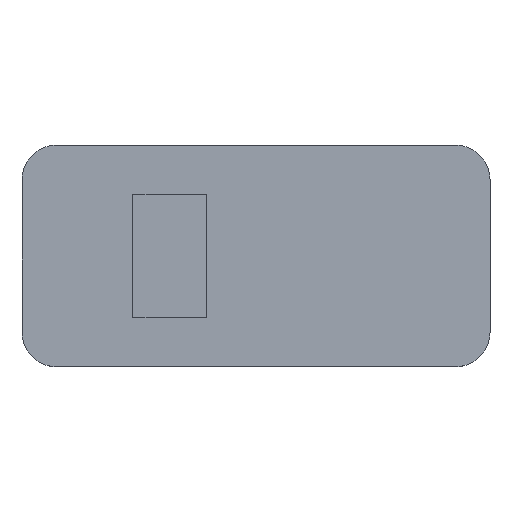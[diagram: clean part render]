
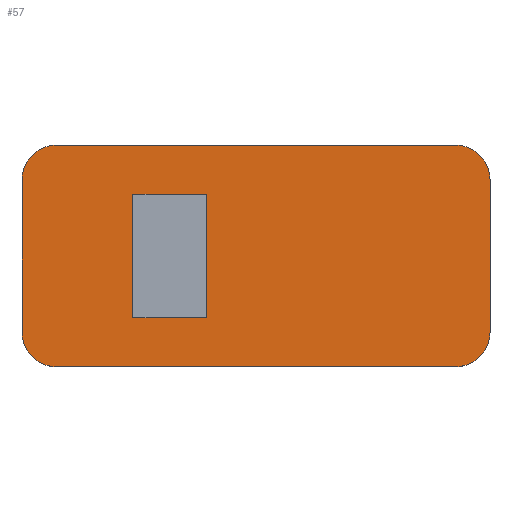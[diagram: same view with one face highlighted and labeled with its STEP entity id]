
A CAD part, top view. The second image highlights one B-rep face of the part: STEP entity #57.
In plain terms, the highlighted planar face has unit normal (0, 0, 1).
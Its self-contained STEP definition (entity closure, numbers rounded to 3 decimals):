
#21 = EDGE_CURVE('',#22,#24,#26,.T.);
#22 = VERTEX_POINT('',#23);
#23 = CARTESIAN_POINT('',(-60.,-31.,8.));
#24 = VERTEX_POINT('',#25);
#25 = CARTESIAN_POINT('',(-60.,31.,8.));
#26 = LINE('',#27,#28);
#27 = CARTESIAN_POINT('',(-60.,-45.,8.));
#28 = VECTOR('',#29,1.);
#29 = DIRECTION('',(-0.,1.,0.));
#57 = ADVANCED_FACE('',(#58,#119),#153,.T.);
#58 = FACE_BOUND('',#59,.T.);
#59 = EDGE_LOOP('',(#60,#61,#70,#78,#87,#95,#104,#112));
#60 = ORIENTED_EDGE('',*,*,#21,.F.);
#61 = ORIENTED_EDGE('',*,*,#62,.T.);
#62 = EDGE_CURVE('',#22,#63,#65,.T.);
#63 = VERTEX_POINT('',#64);
#64 = CARTESIAN_POINT('',(-46.,-45.,8.));
#65 = CIRCLE('',#66,14.);
#66 = AXIS2_PLACEMENT_3D('',#67,#68,#69);
#67 = CARTESIAN_POINT('',(-46.,-31.,8.));
#68 = DIRECTION('',(0.,0.,1.));
#69 = DIRECTION('',(0.,-1.,0.));
#70 = ORIENTED_EDGE('',*,*,#71,.T.);
#71 = EDGE_CURVE('',#63,#72,#74,.T.);
#72 = VERTEX_POINT('',#73);
#73 = CARTESIAN_POINT('',(116.,-45.,8.));
#74 = LINE('',#75,#76);
#75 = CARTESIAN_POINT('',(-60.,-45.,8.));
#76 = VECTOR('',#77,1.);
#77 = DIRECTION('',(1.,0.,-0.));
#78 = ORIENTED_EDGE('',*,*,#79,.F.);
#79 = EDGE_CURVE('',#80,#72,#82,.T.);
#80 = VERTEX_POINT('',#81);
#81 = CARTESIAN_POINT('',(130.,-31.,8.));
#82 = CIRCLE('',#83,14.);
#83 = AXIS2_PLACEMENT_3D('',#84,#85,#86);
#84 = CARTESIAN_POINT('',(116.,-31.,8.));
#85 = DIRECTION('',(-0.,-0.,-1.));
#86 = DIRECTION('',(0.,-1.,0.));
#87 = ORIENTED_EDGE('',*,*,#88,.T.);
#88 = EDGE_CURVE('',#80,#89,#91,.T.);
#89 = VERTEX_POINT('',#90);
#90 = CARTESIAN_POINT('',(130.,31.,8.));
#91 = LINE('',#92,#93);
#92 = CARTESIAN_POINT('',(130.,-45.,8.));
#93 = VECTOR('',#94,1.);
#94 = DIRECTION('',(-0.,1.,0.));
#95 = ORIENTED_EDGE('',*,*,#96,.T.);
#96 = EDGE_CURVE('',#89,#97,#99,.T.);
#97 = VERTEX_POINT('',#98);
#98 = CARTESIAN_POINT('',(116.,45.,8.));
#99 = CIRCLE('',#100,14.);
#100 = AXIS2_PLACEMENT_3D('',#101,#102,#103);
#101 = CARTESIAN_POINT('',(116.,31.,8.));
#102 = DIRECTION('',(0.,0.,1.));
#103 = DIRECTION('',(0.,-1.,0.));
#104 = ORIENTED_EDGE('',*,*,#105,.F.);
#105 = EDGE_CURVE('',#106,#97,#108,.T.);
#106 = VERTEX_POINT('',#107);
#107 = CARTESIAN_POINT('',(-46.,45.,8.));
#108 = LINE('',#109,#110);
#109 = CARTESIAN_POINT('',(-60.,45.,8.));
#110 = VECTOR('',#111,1.);
#111 = DIRECTION('',(1.,0.,-0.));
#112 = ORIENTED_EDGE('',*,*,#113,.F.);
#113 = EDGE_CURVE('',#24,#106,#114,.T.);
#114 = CIRCLE('',#115,14.);
#115 = AXIS2_PLACEMENT_3D('',#116,#117,#118);
#116 = CARTESIAN_POINT('',(-46.,31.,8.));
#117 = DIRECTION('',(-0.,-0.,-1.));
#118 = DIRECTION('',(0.,-1.,0.));
#119 = FACE_BOUND('',#120,.T.);
#120 = EDGE_LOOP('',(#121,#131,#139,#147));
#121 = ORIENTED_EDGE('',*,*,#122,.F.);
#122 = EDGE_CURVE('',#123,#125,#127,.T.);
#123 = VERTEX_POINT('',#124);
#124 = CARTESIAN_POINT('',(-15.,-25.,8.));
#125 = VERTEX_POINT('',#126);
#126 = CARTESIAN_POINT('',(15.,-25.,8.));
#127 = LINE('',#128,#129);
#128 = CARTESIAN_POINT('',(-15.,-25.,8.));
#129 = VECTOR('',#130,1.);
#130 = DIRECTION('',(1.,0.,-0.));
#131 = ORIENTED_EDGE('',*,*,#132,.T.);
#132 = EDGE_CURVE('',#123,#133,#135,.T.);
#133 = VERTEX_POINT('',#134);
#134 = CARTESIAN_POINT('',(-15.,25.,8.));
#135 = LINE('',#136,#137);
#136 = CARTESIAN_POINT('',(-15.,-25.,8.));
#137 = VECTOR('',#138,1.);
#138 = DIRECTION('',(-0.,1.,0.));
#139 = ORIENTED_EDGE('',*,*,#140,.T.);
#140 = EDGE_CURVE('',#133,#141,#143,.T.);
#141 = VERTEX_POINT('',#142);
#142 = CARTESIAN_POINT('',(15.,25.,8.));
#143 = LINE('',#144,#145);
#144 = CARTESIAN_POINT('',(-15.,25.,8.));
#145 = VECTOR('',#146,1.);
#146 = DIRECTION('',(1.,0.,-0.));
#147 = ORIENTED_EDGE('',*,*,#148,.F.);
#148 = EDGE_CURVE('',#125,#141,#149,.T.);
#149 = LINE('',#150,#151);
#150 = CARTESIAN_POINT('',(15.,-25.,8.));
#151 = VECTOR('',#152,1.);
#152 = DIRECTION('',(-0.,1.,0.));
#153 = PLANE('',#154);
#154 = AXIS2_PLACEMENT_3D('',#155,#156,#157);
#155 = CARTESIAN_POINT('',(-60.,-45.,8.));
#156 = DIRECTION('',(0.,0.,1.));
#157 = DIRECTION('',(1.,0.,-0.));
